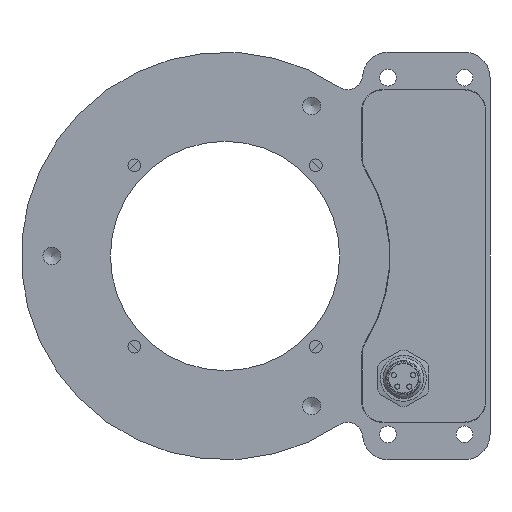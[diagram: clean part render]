
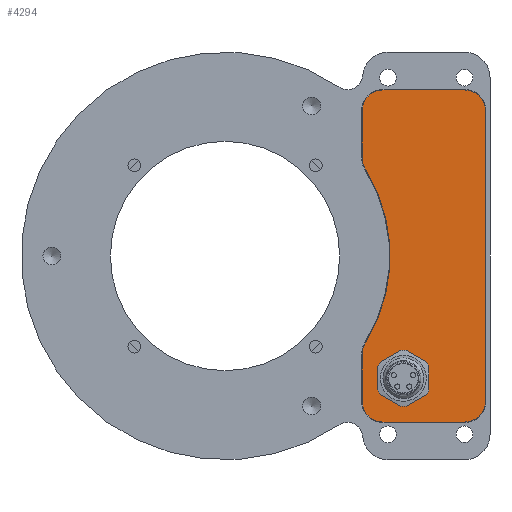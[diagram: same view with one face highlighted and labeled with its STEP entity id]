
A CAD part, front view. The second image highlights one B-rep face of the part: STEP entity #4294.
In plain terms, the highlighted planar face has unit normal (0, -1, 0).
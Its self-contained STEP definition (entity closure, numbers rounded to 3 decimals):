
#37 = AXIS2_PLACEMENT_3D ( 'NONE', #378, #4196, #3157 ) ;
#67 = EDGE_CURVE ( 'NONE', #2074, #3530, #3285, .T. ) ;
#72 = VERTEX_POINT ( 'NONE', #2045 ) ;
#82 = LINE ( 'NONE', #1023, #3955 ) ;
#139 = EDGE_LOOP ( 'NONE', ( #4501, #1113, #1164, #1952, #822, #912, #4516, #2301, #2466, #1894, #2620, #3815 ) ) ;
#145 = CARTESIAN_POINT ( 'NONE',  ( 47., 0.2, -32.6 ) ) ;
#159 = EDGE_CURVE ( 'NONE', #2241, #4346, #1087, .T. ) ;
#253 = DIRECTION ( 'NONE',  ( 1., 0., 0. ) ) ;
#268 = VERTEX_POINT ( 'NONE', #1972 ) ;
#291 = DIRECTION ( 'NONE',  ( 0., -1., 0. ) ) ;
#332 = EDGE_CURVE ( 'NONE', #72, #268, #1781, .T. ) ;
#378 = CARTESIAN_POINT ( 'NONE',  ( 47., 0.2, -28.5 ) ) ;
#379 = ORIENTED_EDGE ( 'NONE', *, *, #457, .T. ) ;
#457 = EDGE_CURVE ( 'NONE', #4346, #72, #1628, .T. ) ;
#506 = CIRCLE ( 'NONE', #4063, 4.1 ) ;
#561 = CARTESIAN_POINT ( 'NONE',  ( 35., 0.2, -24. ) ) ;
#565 = CARTESIAN_POINT ( 'NONE',  ( 51.1, 0.2, -28.5 ) ) ;
#647 = VERTEX_POINT ( 'NONE', #4528 ) ;
#666 = CARTESIAN_POINT ( 'NONE',  ( 27.584, 0.2, -16.997 ) ) ;
#692 = CARTESIAN_POINT ( 'NONE',  ( 31.5, 0.2, 19.41 ) ) ;
#779 = CARTESIAN_POINT ( 'NONE',  ( 35., 0.2, -24. ) ) ;
#817 = CIRCLE ( 'NONE', #3816, 4.6 ) ;
#822 = ORIENTED_EDGE ( 'NONE', *, *, #826, .F. ) ;
#826 = EDGE_CURVE ( 'NONE', #3530, #1250, #817, .T. ) ;
#893 = DIRECTION ( 'NONE',  ( 0., 0., -1. ) ) ;
#894 = AXIS2_PLACEMENT_3D ( 'NONE', #561, #3751, #4092 ) ;
#912 = ORIENTED_EDGE ( 'NONE', *, *, #67, .F. ) ;
#932 = LINE ( 'NONE', #2368, #1107 ) ;
#1023 = CARTESIAN_POINT ( 'NONE',  ( 47., 0.2, -32.6 ) ) ;
#1087 = CIRCLE ( 'NONE', #2558, 4.3 ) ;
#1107 = VECTOR ( 'NONE', #2397, 1000. ) ;
#1113 = ORIENTED_EDGE ( 'NONE', *, *, #2958, .F. ) ;
#1143 = VERTEX_POINT ( 'NONE', #1240 ) ;
#1158 = LINE ( 'NONE', #1879, #3186 ) ;
#1164 = ORIENTED_EDGE ( 'NONE', *, *, #2215, .F. ) ;
#1171 = AXIS2_PLACEMENT_3D ( 'NONE', #4264, #2137, #2467 ) ;
#1240 = CARTESIAN_POINT ( 'NONE',  ( 26.9, 0.2, -19.41 ) ) ;
#1250 = VERTEX_POINT ( 'NONE', #1280 ) ;
#1253 = ORIENTED_EDGE ( 'NONE', *, *, #3693, .T. ) ;
#1280 = CARTESIAN_POINT ( 'NONE',  ( 26.9, 0.2, 19.41 ) ) ;
#1326 = CIRCLE ( 'NONE', #1171, 4.1 ) ;
#1330 = CIRCLE ( 'NONE', #2261, 4.6 ) ;
#1375 = CARTESIAN_POINT ( 'NONE',  ( 27.584, 0.2, 16.997 ) ) ;
#1392 = CARTESIAN_POINT ( 'NONE',  ( 26.9, 0.2, -28.5 ) ) ;
#1423 = CARTESIAN_POINT ( 'NONE',  ( 0., 0.2, 0. ) ) ;
#1522 = ORIENTED_EDGE ( 'NONE', *, *, #332, .T. ) ;
#1592 = AXIS2_PLACEMENT_3D ( 'NONE', #3847, #3462, #2391 ) ;
#1628 = LINE ( 'NONE', #3517, #2503 ) ;
#1659 = EDGE_CURVE ( 'NONE', #1250, #2350, #1158, .T. ) ;
#1716 = CARTESIAN_POINT ( 'NONE',  ( 31., 0.2, -32.6 ) ) ;
#1730 = DIRECTION ( 'NONE',  ( 0., 1., 0. ) ) ;
#1781 = CIRCLE ( 'NONE', #894, 4.3 ) ;
#1802 = EDGE_LOOP ( 'NONE', ( #2225, #379, #1522, #1253 ) ) ;
#1836 = CARTESIAN_POINT ( 'NONE',  ( 51.1, 0.2, 28.5 ) ) ;
#1879 = CARTESIAN_POINT ( 'NONE',  ( 26.9, 0.2, 19.41 ) ) ;
#1894 = ORIENTED_EDGE ( 'NONE', *, *, #4305, .F. ) ;
#1945 = CIRCLE ( 'NONE', #37, 4.1 ) ;
#1952 = ORIENTED_EDGE ( 'NONE', *, *, #1659, .F. ) ;
#1972 = CARTESIAN_POINT ( 'NONE',  ( 38.7, 0.2, -21.809 ) ) ;
#2008 = CIRCLE ( 'NONE', #2100, 4.1 ) ;
#2045 = CARTESIAN_POINT ( 'NONE',  ( 31.3, 0.2, -21.809 ) ) ;
#2051 = CARTESIAN_POINT ( 'NONE',  ( 47., 0.2, 32.6 ) ) ;
#2074 = VERTEX_POINT ( 'NONE', #666 ) ;
#2093 = EDGE_CURVE ( 'NONE', #1143, #2074, #1330, .T. ) ;
#2100 = AXIS2_PLACEMENT_3D ( 'NONE', #3498, #1730, #2439 ) ;
#2134 = VERTEX_POINT ( 'NONE', #2428 ) ;
#2137 = DIRECTION ( 'NONE',  ( 0., 1., 0. ) ) ;
#2160 = VECTOR ( 'NONE', #3874, 1000. ) ;
#2215 = EDGE_CURVE ( 'NONE', #2350, #2725, #1326, .T. ) ;
#2225 = ORIENTED_EDGE ( 'NONE', *, *, #159, .T. ) ;
#2241 = VERTEX_POINT ( 'NONE', #3212 ) ;
#2261 = AXIS2_PLACEMENT_3D ( 'NONE', #4533, #4502, #2746 ) ;
#2283 = FACE_BOUND ( 'NONE', #1802, .T. ) ;
#2301 = ORIENTED_EDGE ( 'NONE', *, *, #2781, .F. ) ;
#2350 = VERTEX_POINT ( 'NONE', #2841 ) ;
#2368 = CARTESIAN_POINT ( 'NONE',  ( 38.7, 0.2, -26.191 ) ) ;
#2375 = CARTESIAN_POINT ( 'NONE',  ( 31., 0.2, 32.6 ) ) ;
#2391 = DIRECTION ( 'NONE',  ( 1., 0., 0. ) ) ;
#2397 = DIRECTION ( 'NONE',  ( 0., 0., -1. ) ) ;
#2416 = DIRECTION ( 'NONE',  ( 0., 0., 1. ) ) ;
#2428 = CARTESIAN_POINT ( 'NONE',  ( 51.1, 0.2, -28.5 ) ) ;
#2439 = DIRECTION ( 'NONE',  ( -1., 0., 0. ) ) ;
#2460 = DIRECTION ( 'NONE',  ( -1., 0., 0. ) ) ;
#2466 = ORIENTED_EDGE ( 'NONE', *, *, #4417, .F. ) ;
#2467 = DIRECTION ( 'NONE',  ( -1., 0., 0. ) ) ;
#2496 = DIRECTION ( 'NONE',  ( 0., 1., 0. ) ) ;
#2503 = VECTOR ( 'NONE', #2416, 1000. ) ;
#2558 = AXIS2_PLACEMENT_3D ( 'NONE', #779, #3216, #3237 ) ;
#2620 = ORIENTED_EDGE ( 'NONE', *, *, #3746, .F. ) ;
#2631 = CARTESIAN_POINT ( 'NONE',  ( 47., 0.2, 28.5 ) ) ;
#2716 = VECTOR ( 'NONE', #893, 1000. ) ;
#2723 = LINE ( 'NONE', #3820, #3338 ) ;
#2725 = VERTEX_POINT ( 'NONE', #2375 ) ;
#2744 = CARTESIAN_POINT ( 'NONE',  ( 31.3, 0.2, -26.191 ) ) ;
#2746 = DIRECTION ( 'NONE',  ( 1., 0., 0. ) ) ;
#2781 = EDGE_CURVE ( 'NONE', #3457, #1143, #2723, .T. ) ;
#2841 = CARTESIAN_POINT ( 'NONE',  ( 26.9, 0.2, 28.5 ) ) ;
#2932 = LINE ( 'NONE', #565, #2716 ) ;
#2958 = EDGE_CURVE ( 'NONE', #2725, #647, #4048, .T. ) ;
#2968 = VERTEX_POINT ( 'NONE', #1716 ) ;
#3117 = FACE_OUTER_BOUND ( 'NONE', #139, .T. ) ;
#3157 = DIRECTION ( 'NONE',  ( -1., 0., 0. ) ) ;
#3186 = VECTOR ( 'NONE', #3606, 1000. ) ;
#3212 = CARTESIAN_POINT ( 'NONE',  ( 38.7, 0.2, -26.191 ) ) ;
#3216 = DIRECTION ( 'NONE',  ( 0., 1., 0. ) ) ;
#3237 = DIRECTION ( 'NONE',  ( -1., 0., 0. ) ) ;
#3285 = CIRCLE ( 'NONE', #4474, 32.4 ) ;
#3338 = VECTOR ( 'NONE', #4527, 1000. ) ;
#3457 = VERTEX_POINT ( 'NONE', #1392 ) ;
#3462 = DIRECTION ( 'NONE',  ( 0., -1., 0. ) ) ;
#3498 = CARTESIAN_POINT ( 'NONE',  ( 31., 0.2, -28.5 ) ) ;
#3517 = CARTESIAN_POINT ( 'NONE',  ( 31.3, 0.2, -26.191 ) ) ;
#3530 = VERTEX_POINT ( 'NONE', #1375 ) ;
#3606 = DIRECTION ( 'NONE',  ( 0., 0., 1. ) ) ;
#3682 = PLANE ( 'NONE',  #1592 ) ;
#3693 = EDGE_CURVE ( 'NONE', #268, #2241, #932, .T. ) ;
#3746 = EDGE_CURVE ( 'NONE', #2134, #3963, #1945, .T. ) ;
#3751 = DIRECTION ( 'NONE',  ( 0., 1., 0. ) ) ;
#3768 = DIRECTION ( 'NONE',  ( 0., 1., 0. ) ) ;
#3815 = ORIENTED_EDGE ( 'NONE', *, *, #3933, .F. ) ;
#3816 = AXIS2_PLACEMENT_3D ( 'NONE', #692, #2496, #2460 ) ;
#3820 = CARTESIAN_POINT ( 'NONE',  ( 26.9, 0.2, -28.5 ) ) ;
#3847 = CARTESIAN_POINT ( 'NONE',  ( 47., 0.2, 28.5 ) ) ;
#3874 = DIRECTION ( 'NONE',  ( 1., 0., 0. ) ) ;
#3885 = DIRECTION ( 'NONE',  ( -1., 0., 0. ) ) ;
#3933 = EDGE_CURVE ( 'NONE', #4114, #2134, #2932, .T. ) ;
#3955 = VECTOR ( 'NONE', #4545, 1000. ) ;
#3963 = VERTEX_POINT ( 'NONE', #145 ) ;
#4008 = EDGE_CURVE ( 'NONE', #647, #4114, #506, .T. ) ;
#4048 = LINE ( 'NONE', #2051, #2160 ) ;
#4063 = AXIS2_PLACEMENT_3D ( 'NONE', #2631, #3768, #253 ) ;
#4092 = DIRECTION ( 'NONE',  ( -1., 0., 0. ) ) ;
#4114 = VERTEX_POINT ( 'NONE', #1836 ) ;
#4196 = DIRECTION ( 'NONE',  ( 0., 1., 0. ) ) ;
#4264 = CARTESIAN_POINT ( 'NONE',  ( 31., 0.2, 28.5 ) ) ;
#4294 = ADVANCED_FACE ( 'NONE', ( #2283, #3117 ), #3682, .T. ) ;
#4305 = EDGE_CURVE ( 'NONE', #3963, #2968, #82, .T. ) ;
#4346 = VERTEX_POINT ( 'NONE', #2744 ) ;
#4417 = EDGE_CURVE ( 'NONE', #2968, #3457, #2008, .T. ) ;
#4474 = AXIS2_PLACEMENT_3D ( 'NONE', #1423, #291, #3885 ) ;
#4501 = ORIENTED_EDGE ( 'NONE', *, *, #4008, .F. ) ;
#4502 = DIRECTION ( 'NONE',  ( 0., 1., 0. ) ) ;
#4516 = ORIENTED_EDGE ( 'NONE', *, *, #2093, .F. ) ;
#4527 = DIRECTION ( 'NONE',  ( 0., 0., 1. ) ) ;
#4528 = CARTESIAN_POINT ( 'NONE',  ( 47., 0.2, 32.6 ) ) ;
#4533 = CARTESIAN_POINT ( 'NONE',  ( 31.5, 0.2, -19.41 ) ) ;
#4545 = DIRECTION ( 'NONE',  ( -1., 0., 0. ) ) ;
